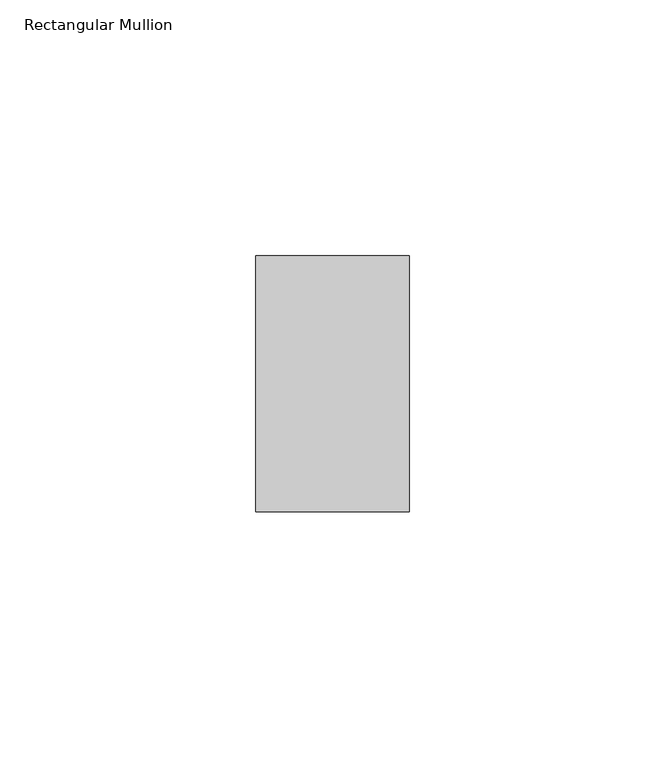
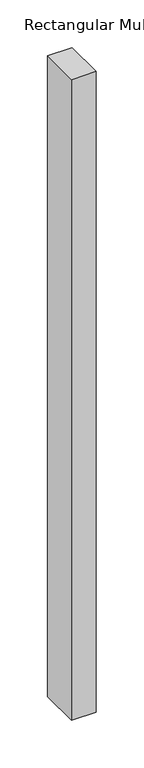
"""IFC4 building model written with IfcOpenShell, lengths in millimetres: member geometry, Rectangular Mullion : ARQ_TV_MULL_50x30mm."""

from ifc_helpers import new_model, si_unit, frame, origin, place, context, project, spatial, polyline, outline, extrude, source, transform, mapped, element, save


def rectangular_mullion_4be04775(model_context):
    return source(origin(), model_context, "Body", "SweptSolid", [
        extrude(outline(polyline([(0.0, 25.0), (0.0, -25.0), (-30.0, -25.0), (-30.0, 25.0), (0.0, 25.0)])), frame((0.0, 0.0, -820.0), z_axis=(0.0, 0.0, 1.0), x_axis=(1.0, 0.0, 0.0)), (0.0, 0.0, 1.0), 820.0),
    ])


if __name__ == "__main__":
    model = new_model("IFC4")
    model_context = context("Model", 3, world=origin())
    ifc_project = project(units=[si_unit("LENGTHUNIT", "METRE", prefix="MILLI")], contexts=[model_context])
    site = spatial("IfcSite", under=ifc_project)
    building = spatial("IfcBuilding", under=site)
    placement = place(None, origin())
    rectangular_mullion_shape = rectangular_mullion_4be04775(model_context)
    element("IfcMember", 1, ObjectType="Rectangular Mullion : ARQ_TV_MULL_50x30mm", at=placement, inside=building, context=model_context, shape_type="MappedRepresentation", body=[
        mapped(rectangular_mullion_shape, transform((0.0, 0.0, 0.0), x_axis=(1.0, 0.0, 0.0), y_axis=(0.0, 1.0, 0.0), z_axis=(0.0, 0.0, 1.0))),
    ])
    save(model, "model.ifc")
